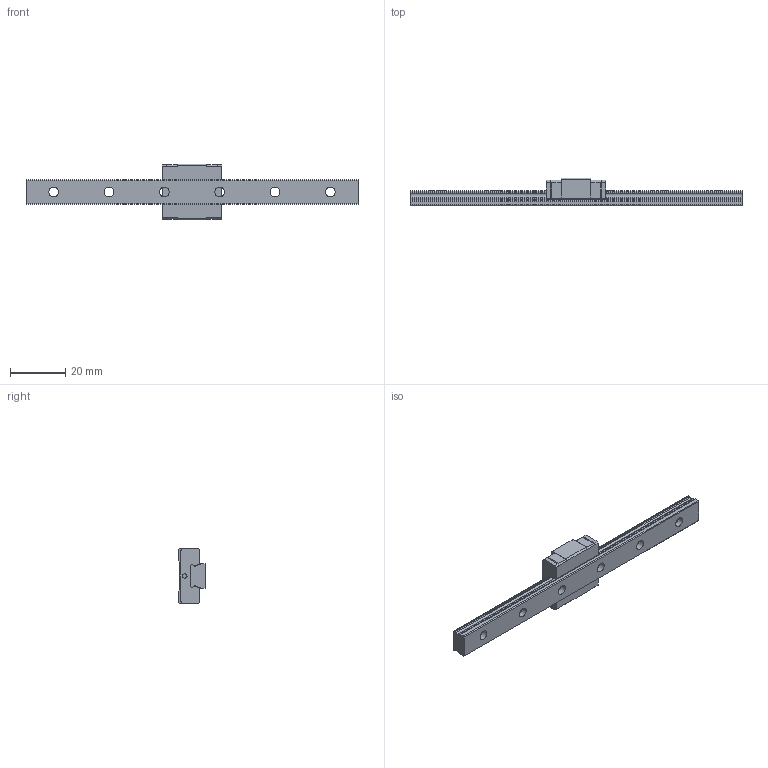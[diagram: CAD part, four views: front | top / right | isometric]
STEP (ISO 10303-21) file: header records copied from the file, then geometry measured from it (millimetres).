
FILE_DESCRIPTION(/* description */ ('STEP AP203'),/* implementation_level */ '2;1');
FILE_NAME(/* name */ 'RSX9SMUU-120LM_G10_0_Without grease nipple_49-25_0_0_0_1',/* time_stamp */ '2024-05-21T10:25:19+02:00',/* author */ ('License CC BY-ND 4.0'),/* organization */ ('CADENAS'),/* preprocessor_version */ 'ST-DEVELOPER v19.3',/* originating_system */ 'PARTsolutions',/* authorisation */ ' ');
FILE_SCHEMA (('CONFIG_CONTROL_DESIGN'));
Length unit declared in the file: millimetre
Products named in the file (3): RSX9SMUU-120LM_G10_0_Without grease nipple_49-25_0_0_0_1; RSX9M12010 Track; RSX9SMUU1 Slider
Assembly tree (2 placements, depth 2):
  RSX9SMUU-120LM_G10_0_Without grease nipple_49-25_0_0_0_1
    RSX9M12010 Track
    RSX9SMUU1 Slider
Bounding box: 120 x 10 x 20 mm (x, y, z)
Volume: 7239.5 mm3; surface area: 5582 mm2
Topology: 2 solids, 2 shells, 124 faces, 334 edges, 222 vertices
Faces by surface type: plane 80, cylinder 40, cone 4
Full cylindrical faces by diameter (mm): 1.6 x2, 2.459 x2, 3.5 x6, 6 x6
Entity records: 3855 total; most frequent: CARTESIAN_POINT 657, DIRECTION 646, ORIENTED_EDGE 620, EDGE_CURVE 310, LINE 228, VECTOR 228, VERTEX_POINT 220, AXIS2_PLACEMENT_3D 209
